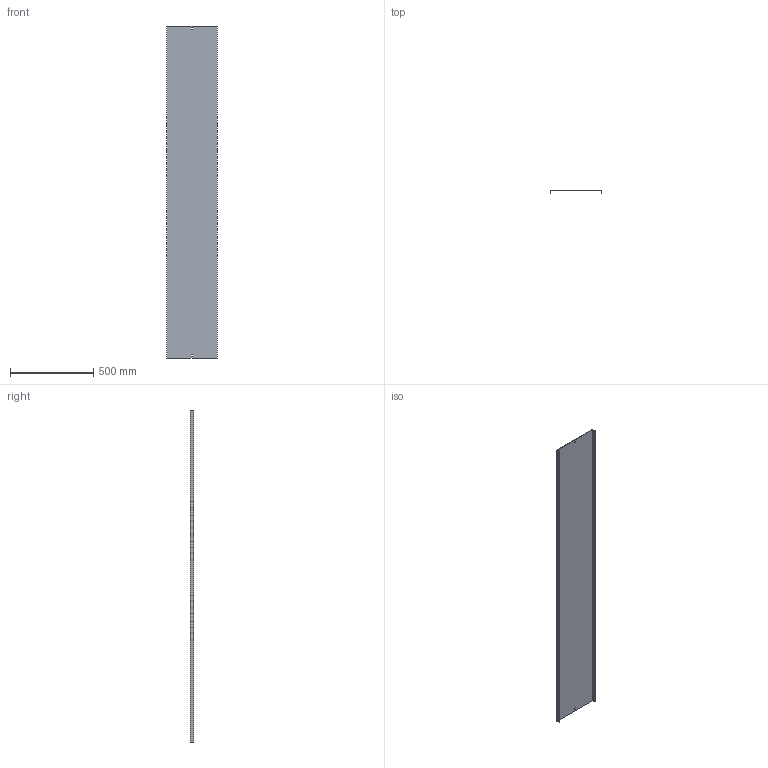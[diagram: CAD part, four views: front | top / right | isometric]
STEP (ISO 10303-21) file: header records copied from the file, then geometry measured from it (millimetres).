
FILE_DESCRIPTION (( 'STEP AP214' ), '1' );
FILE_NAME ('05G2R300.step', '2025-02-21T13:07:23', ( '' ), ( '' ), 'SwSTEP 2.0', 'SolidWorks 2023', '' );
FILE_SCHEMA (( 'AUTOMOTIVE_DESIGN' ));
Length unit declared in the file: millimetre
Products named in the file (1): 05G2R300
Bounding box: 307 x 20 x 2000 mm (x, y, z)
Volume: 1031824.5 mm3; surface area: 1382891 mm2
Topology: 1 solids, 1 shells, 18 faces, 48 edges, 32 vertices
Faces by surface type: plane 18
Entity records: 583 total; most frequent: CARTESIAN_POINT 99, ORIENTED_EDGE 96, DIRECTION 86, LINE 48, VECTOR 48, EDGE_CURVE 48, VERTEX_POINT 32, EDGE_LOOP 22
